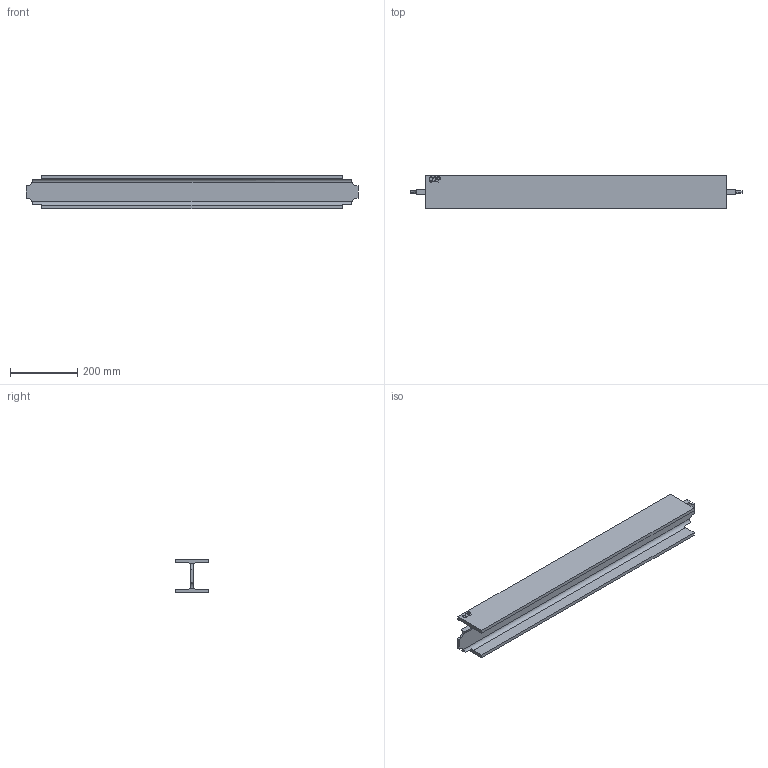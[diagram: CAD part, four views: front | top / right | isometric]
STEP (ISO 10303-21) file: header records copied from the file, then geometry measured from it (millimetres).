
FILE_DESCRIPTION (( 'STEP AP214' ), '1' );
FILE_NAME ('CCJ029-REP.029 - POUTRE INTERMEDIAIRE TRAVERSE TYPE 1.STEP', '2025-02-13T08:14:43', ( '' ), ( '' ), 'SwSTEP 2.0', 'SolidWorks 2021', '' );
FILE_SCHEMA (( 'AUTOMOTIVE_DESIGN' ));
Length unit declared in the file: millimetre
Products named in the file (1): CCJ029-REP.029 - POUTRE INTERMEDIAIRE TRAVERSE TYPE 1
Bounding box: 990 x 100 x 100 mm (x, y, z)
Volume: 2371549.2 mm3; surface area: 527955.5 mm2
Topology: 1 solids, 1 shells, 68 faces, 183 edges, 122 vertices
Faces by surface type: plane 36, bspline 24, cylinder 8
Entity records: 3841 total; most frequent: CARTESIAN_POINT 2262, ORIENTED_EDGE 366, DIRECTION 233, EDGE_CURVE 183, VERTEX_POINT 122, VECTOR 111, LINE 111, EDGE_LOOP 73
